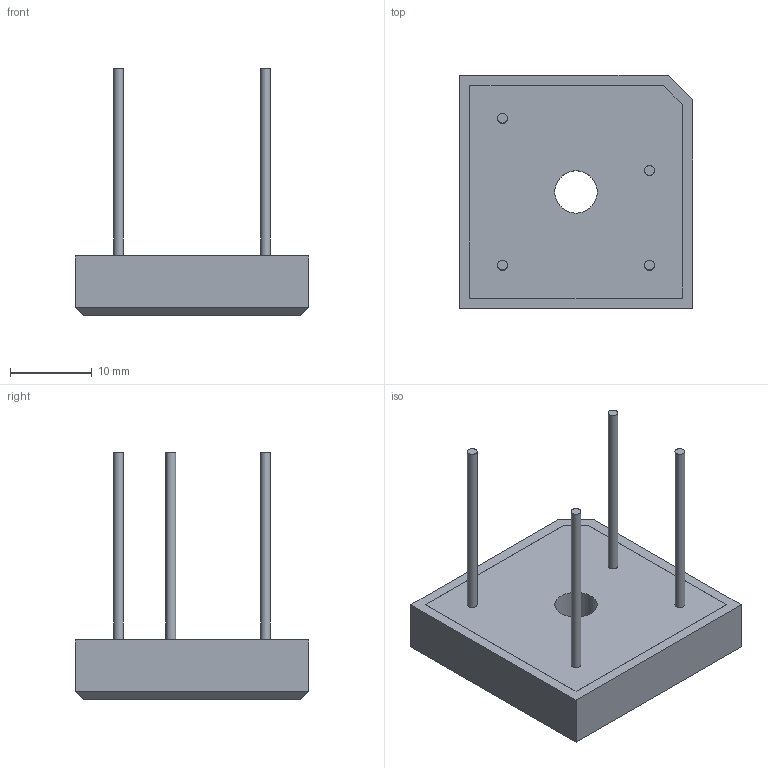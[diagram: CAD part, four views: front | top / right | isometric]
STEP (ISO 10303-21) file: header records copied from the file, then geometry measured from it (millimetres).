
FILE_DESCRIPTION(/* description */ (''),/* implementation_level */ '2;1');
FILE_NAME(/* name */ 'p12WP.stp',/* time_stamp */ '2018-04-19T17:00:35+02:00',/* author */ (''),/* organization */ (''),/* preprocessor_version */ 'ST-DEVELOPER v14',/* originating_system */ 'SIEMENS PLM Software NX 8.0',/* authorisation */ '');
FILE_SCHEMA (('CONFIG_CONTROL_DESIGN'));
Length unit declared in the file: millimetre
Products named in the file (1): 012001-05643test
Bounding box: 28.6 x 28.6 x 30.3 mm (x, y, z)
Volume: 5833.6 mm3; surface area: 2807.4 mm2
Topology: 1 solids, 1 shells, 27 faces, 55 edges, 35 vertices
Faces by surface type: plane 22, cylinder 5
Full cylindrical faces by diameter (mm): 1.2 x4, 5.2 x1
Entity records: 762 total; most frequent: DIRECTION 116, CARTESIAN_POINT 113, ORIENTED_EDGE 100, EDGE_CURVE 50, LINE 40, VECTOR 40, EDGE_LOOP 39, AXIS2_PLACEMENT_3D 38
